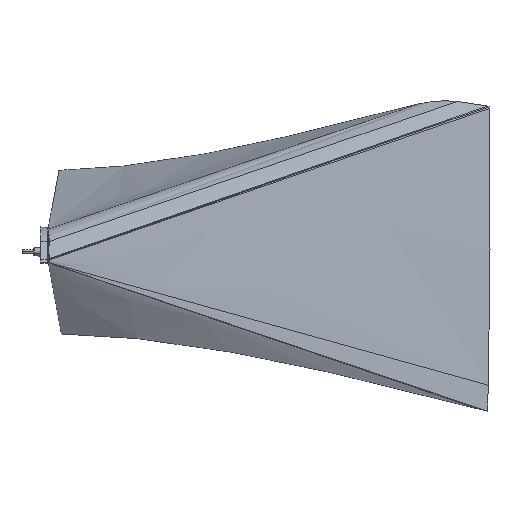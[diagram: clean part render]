
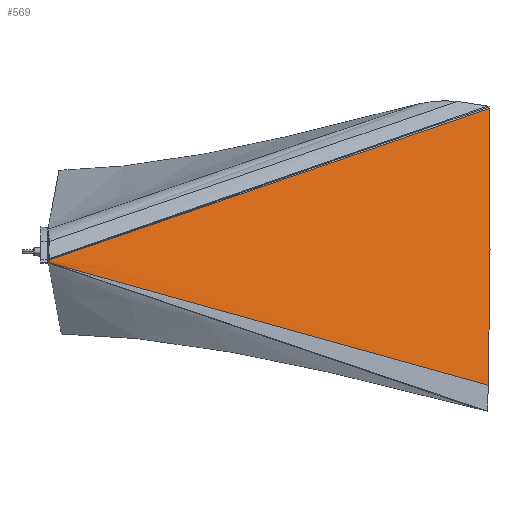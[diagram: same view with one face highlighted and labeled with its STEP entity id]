
A CAD part, front view. The second image highlights one B-rep face of the part: STEP entity #569.
In plain terms, the highlighted free-form (B-spline) face has degree [5, 1] with [18, 2] control points.
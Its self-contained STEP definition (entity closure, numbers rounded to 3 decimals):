
#391=CARTESIAN_POINT('Control Point',(8.6,-67.39,-16.316)) ;
#392=CARTESIAN_POINT('Control Point',(490.229,200.,149.473)) ;
#393=CARTESIAN_POINT('Vertex',(8.6,-67.39,-16.316)) ;
#395=CARTESIAN_POINT('Vertex',(490.229,200.,149.473)) ;
#437=CARTESIAN_POINT('Control Point',(8.6,-66.479,-18.819)) ;
#438=CARTESIAN_POINT('Control Point',(2721.735,1438.133,-775.744)) ;
#439=CARTESIAN_POINT('Control Point',(8.6,-66.703,-18.633)) ;
#440=CARTESIAN_POINT('Control Point',(2749.311,1452.796,-652.416)) ;
#441=CARTESIAN_POINT('Control Point',(8.6,-66.901,-18.417)) ;
#442=CARTESIAN_POINT('Control Point',(2771.407,1464.544,-527.517)) ;
#443=CARTESIAN_POINT('Control Point',(8.6,-67.037,-18.205)) ;
#444=CARTESIAN_POINT('Control Point',(2787.314,1473.002,-404.234)) ;
#445=CARTESIAN_POINT('Control Point',(8.6,-67.209,-17.883)) ;
#446=CARTESIAN_POINT('Control Point',(2806.294,1483.094,-192.058)) ;
#447=CARTESIAN_POINT('Control Point',(8.6,-67.303,-17.621)) ;
#448=CARTESIAN_POINT('Control Point',(2808.891,1484.475,33.734)) ;
#449=CARTESIAN_POINT('Control Point',(8.6,-67.332,-17.525)) ;
#450=CARTESIAN_POINT('Control Point',(2806.663,1483.29,129.155)) ;
#451=CARTESIAN_POINT('Control Point',(8.6,-67.368,-17.384)) ;
#452=CARTESIAN_POINT('Control Point',(2797.907,1478.635,284.381)) ;
#453=CARTESIAN_POINT('Control Point',(8.6,-67.394,-17.249)) ;
#454=CARTESIAN_POINT('Control Point',(2781.251,1469.778,435.456)) ;
#455=CARTESIAN_POINT('Control Point',(8.6,-67.404,-17.193)) ;
#456=CARTESIAN_POINT('Control Point',(2773.259,1465.529,497.166)) ;
#457=CARTESIAN_POINT('Control Point',(8.6,-67.418,-17.091)) ;
#458=CARTESIAN_POINT('Control Point',(2757.898,1457.361,595.77)) ;
#459=CARTESIAN_POINT('Control Point',(8.6,-67.428,-16.966)) ;
#460=CARTESIAN_POINT('Control Point',(2740.923,1448.336,685.408)) ;
#461=CARTESIAN_POINT('Control Point',(8.6,-67.432,-16.912)) ;
#462=CARTESIAN_POINT('Control Point',(2733.99,1444.649,720.25)) ;
#463=CARTESIAN_POINT('Control Point',(8.6,-67.435,-16.796)) ;
#464=CARTESIAN_POINT('Control Point',(2720.916,1437.697,780.709)) ;
#465=CARTESIAN_POINT('Control Point',(8.6,-67.43,-16.65)) ;
#466=CARTESIAN_POINT('Control Point',(2708.653,1431.178,832.456)) ;
#467=CARTESIAN_POINT('Control Point',(8.6,-67.428,-16.579)) ;
#468=CARTESIAN_POINT('Control Point',(2702.661,1427.991,857.334)) ;
#469=CARTESIAN_POINT('Control Point',(8.6,-67.416,-16.458)) ;
#470=CARTESIAN_POINT('Control Point',(2695.564,1424.218,884.882)) ;
#471=CARTESIAN_POINT('Control Point',(8.6,-67.39,-16.316)) ;
#472=CARTESIAN_POINT('Control Point',(2689.814,1421.161,906.623)) ;
#474=CARTESIAN_POINT('Control Point',(8.6,-66.479,-18.819)) ;
#475=CARTESIAN_POINT('Control Point',(489.118,200.,-152.876)) ;
#476=CARTESIAN_POINT('Vertex',(8.6,-66.479,-18.819)) ;
#478=CARTESIAN_POINT('Vertex',(489.118,200.,-152.876)) ;
#482=CARTESIAN_POINT('Control Point',(8.6,-66.479,-18.819)) ;
#483=CARTESIAN_POINT('Control Point',(8.6,-66.703,-18.633)) ;
#484=CARTESIAN_POINT('Control Point',(8.6,-66.901,-18.417)) ;
#485=CARTESIAN_POINT('Control Point',(8.6,-67.037,-18.205)) ;
#486=CARTESIAN_POINT('Control Point',(8.6,-67.209,-17.883)) ;
#487=CARTESIAN_POINT('Control Point',(8.6,-67.303,-17.621)) ;
#488=CARTESIAN_POINT('Control Point',(8.6,-67.332,-17.525)) ;
#489=CARTESIAN_POINT('Control Point',(8.6,-67.368,-17.384)) ;
#490=CARTESIAN_POINT('Control Point',(8.6,-67.394,-17.249)) ;
#491=CARTESIAN_POINT('Control Point',(8.6,-67.404,-17.193)) ;
#492=CARTESIAN_POINT('Control Point',(8.6,-67.418,-17.091)) ;
#493=CARTESIAN_POINT('Control Point',(8.6,-67.428,-16.966)) ;
#494=CARTESIAN_POINT('Control Point',(8.6,-67.432,-16.912)) ;
#495=CARTESIAN_POINT('Control Point',(8.6,-67.435,-16.796)) ;
#496=CARTESIAN_POINT('Control Point',(8.6,-67.43,-16.65)) ;
#497=CARTESIAN_POINT('Control Point',(8.6,-67.428,-16.579)) ;
#498=CARTESIAN_POINT('Control Point',(8.6,-67.416,-16.458)) ;
#499=CARTESIAN_POINT('Control Point',(8.6,-67.39,-16.316)) ;
#502=CARTESIAN_POINT('Control Point',(489.118,200.,-152.876)) ;
#503=CARTESIAN_POINT('Control Point',(489.508,200.,-135.913)) ;
#504=CARTESIAN_POINT('Control Point',(489.855,200.,-119.177)) ;
#505=CARTESIAN_POINT('Control Point',(490.138,200.,-102.803)) ;
#506=CARTESIAN_POINT('Control Point',(490.44,200.,-81.11)) ;
#507=CARTESIAN_POINT('Control Point',(490.652,200.,-59.49)) ;
#508=CARTESIAN_POINT('Control Point',(490.702,200.,-53.885)) ;
#509=CARTESIAN_POINT('Control Point',(490.757,200.,-46.724)) ;
#510=CARTESIAN_POINT('Control Point',(490.805,200.,-39.503)) ;
#511=CARTESIAN_POINT('Control Point',(490.815,200.,-37.951)) ;
#512=CARTESIAN_POINT('Control Point',(490.866,200.,-29.454)) ;
#513=CARTESIAN_POINT('Control Point',(490.907,200.,-20.89)) ;
#514=CARTESIAN_POINT('Control Point',(490.933,200.,-13.871)) ;
#515=CARTESIAN_POINT('Control Point',(490.972,200.,0.684)) ;
#516=CARTESIAN_POINT('Control Point',(490.984,200.,15.222)) ;
#517=CARTESIAN_POINT('Control Point',(490.983,200.,22.727)) ;
#518=CARTESIAN_POINT('Control Point',(490.976,200.,30.801)) ;
#519=CARTESIAN_POINT('Control Point',(490.962,200.,38.853)) ;
#520=CARTESIAN_POINT('Control Point',(490.961,200.,39.444)) ;
#521=CARTESIAN_POINT('Control Point',(490.956,200.,42.192)) ;
#522=CARTESIAN_POINT('Control Point',(490.95,200.,44.937)) ;
#523=CARTESIAN_POINT('Control Point',(490.945,200.,47.096)) ;
#524=CARTESIAN_POINT('Control Point',(490.933,200.,52.018)) ;
#525=CARTESIAN_POINT('Control Point',(490.917,200.,56.982)) ;
#526=CARTESIAN_POINT('Control Point',(490.908,200.,59.779)) ;
#527=CARTESIAN_POINT('Control Point',(490.884,200.,66.51)) ;
#528=CARTESIAN_POINT('Control Point',(490.855,200.,73.335)) ;
#529=CARTESIAN_POINT('Control Point',(490.837,200.,77.333)) ;
#530=CARTESIAN_POINT('Control Point',(490.81,200.,82.942)) ;
#531=CARTESIAN_POINT('Control Point',(490.779,200.,88.52)) ;
#532=CARTESIAN_POINT('Control Point',(490.771,200.,90.106)) ;
#533=CARTESIAN_POINT('Control Point',(490.76,200.,92.032)) ;
#534=CARTESIAN_POINT('Control Point',(490.748,200.,93.946)) ;
#535=CARTESIAN_POINT('Control Point',(490.746,200.,94.3)) ;
#536=CARTESIAN_POINT('Control Point',(490.738,200.,95.678)) ;
#537=CARTESIAN_POINT('Control Point',(490.73,200.,97.05)) ;
#538=CARTESIAN_POINT('Control Point',(490.723,200.,98.079)) ;
#539=CARTESIAN_POINT('Control Point',(490.696,200.,102.438)) ;
#540=CARTESIAN_POINT('Control Point',(490.666,200.,106.846)) ;
#541=CARTESIAN_POINT('Control Point',(490.642,200.,110.3)) ;
#542=CARTESIAN_POINT('Control Point',(490.602,200.,115.681)) ;
#543=CARTESIAN_POINT('Control Point',(490.558,200.,121.097)) ;
#544=CARTESIAN_POINT('Control Point',(490.542,200.,122.952)) ;
#545=CARTESIAN_POINT('Control Point',(490.524,200.,125.039)) ;
#546=CARTESIAN_POINT('Control Point',(490.505,200.,127.075)) ;
#547=CARTESIAN_POINT('Control Point',(490.503,200.,127.334)) ;
#548=CARTESIAN_POINT('Control Point',(490.494,200.,128.35)) ;
#549=CARTESIAN_POINT('Control Point',(490.484,200.,129.362)) ;
#550=CARTESIAN_POINT('Control Point',(490.477,200.,130.135)) ;
#551=CARTESIAN_POINT('Control Point',(490.459,200.,131.94)) ;
#552=CARTESIAN_POINT('Control Point',(490.44,200.,133.798)) ;
#553=CARTESIAN_POINT('Control Point',(490.429,200.,134.876)) ;
#554=CARTESIAN_POINT('Control Point',(490.409,200.,136.752)) ;
#555=CARTESIAN_POINT('Control Point',(490.387,200.,138.688)) ;
#556=CARTESIAN_POINT('Control Point',(490.377,200.,139.494)) ;
#557=CARTESIAN_POINT('Control Point',(490.346,200.,142.005)) ;
#558=CARTESIAN_POINT('Control Point',(490.311,200.,144.557)) ;
#559=CARTESIAN_POINT('Control Point',(490.286,200.,146.271)) ;
#560=CARTESIAN_POINT('Control Point',(490.258,200.,147.935)) ;
#561=CARTESIAN_POINT('Control Point',(490.229,200.,149.473)) ;
#564=ORIENTED_EDGE('',*,*,#480,.F.) ;
#565=ORIENTED_EDGE('',*,*,#500,.T.) ;
#566=ORIENTED_EDGE('',*,*,#397,.T.) ;
#567=ORIENTED_EDGE('',*,*,#562,.F.) ;
#569=ADVANCED_FACE('Surface.1',(#568),#436,.T.) ;
#390=B_SPLINE_CURVE_WITH_KNOTS('',1,(#391,#392),.UNSPECIFIED.,.F.,.U.,(2,2),(0.,569.249),.UNSPECIFIED.) ;
#473=B_SPLINE_CURVE_WITH_KNOTS('',1,(#474,#475),.UNSPECIFIED.,.F.,.U.,(2,2),(0.,561.253),.UNSPECIFIED.) ;
#481=B_SPLINE_CURVE_WITH_KNOTS('',5,(#482,#483,#484,#485,#486,#487,#488,#489,#490,#491,#492,#493,#494,#495,#496,#497,#498,#499),.UNSPECIFIED.,.F.,.U.,(6,3,3,3,3,6),(0.,449.794,778.889,992.418,1113.79,1194.031),.UNSPECIFIED.) ;
#501=B_SPLINE_CURVE_WITH_KNOTS('',5,(#502,#503,#504,#505,#506,#507,#508,#509,#510,#511,#512,#513,#514,#515,#516,#517,#518,#519,#520,#521,#522,#523,#524,#525,#526,#527,#528,#529,#530,#531,#532,#533,#534,#535,#536,#537,#538,#539,#540,#541,#542,#543,#544,#545,#546,#547,#548,#549,#550,#551,#552,#553,#554,#555,#556,#557,#558,#559,#560,#561),.UNSPECIFIED.,.F.,.U.,(6,3,3,3,3,3,3,3,3,3,3,3,3,3,3,3,3,3,3,6),(0.,340.025,458.848,491.292,636.202,791.545,803.83,848.772,905.999,985.569,1017.296,1024.249,1045.238,1113.053,1148.528,1153.374,1168.727,1188.925,1203.045,1232.507),.UNSPECIFIED.) ;
#436=B_SPLINE_SURFACE_WITH_KNOTS('',5,1,((#437,#438),(#439,#440),(#441,#442),(#443,#444),(#445,#446),(#447,#448),(#449,#450),(#451,#452),(#453,#454),(#455,#456),(#457,#458),(#459,#460),(#461,#462),(#463,#464),(#465,#466),(#467,#468),(#469,#470),(#471,#472)),.UNSPECIFIED.,.F.,.F.,.U.,(6,3,3,3,3,6),(2,2),(0.,449.794,778.889,992.418,1113.79,1194.031),(0.,3168.991),.UNSPECIFIED.) ;
#397=EDGE_CURVE('',#394,#396,#390,.T.) ;
#480=EDGE_CURVE('',#477,#479,#473,.T.) ;
#500=EDGE_CURVE('',#477,#394,#481,.T.) ;
#562=EDGE_CURVE('',#479,#396,#501,.T.) ;
#563=EDGE_LOOP('',(#564,#565,#566,#567)) ;
#568=FACE_OUTER_BOUND('',#563,.T.) ;
#394=VERTEX_POINT('',#393) ;
#396=VERTEX_POINT('',#395) ;
#477=VERTEX_POINT('',#476) ;
#479=VERTEX_POINT('',#478) ;
